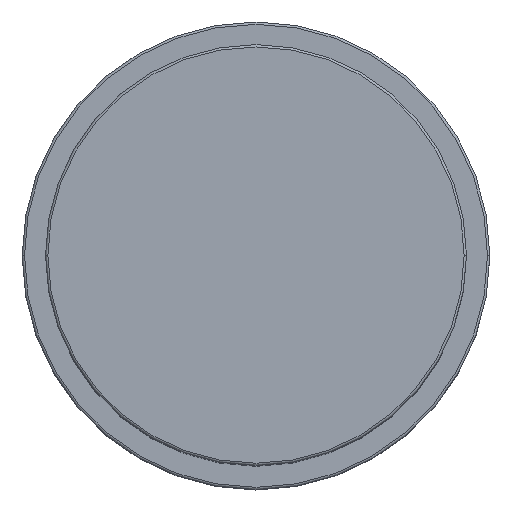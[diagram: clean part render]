
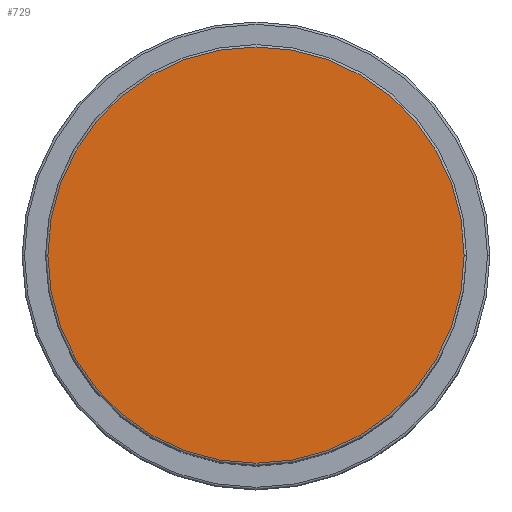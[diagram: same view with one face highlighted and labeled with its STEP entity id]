
A CAD part, top view. The second image highlights one B-rep face of the part: STEP entity #729.
In plain terms, the highlighted planar face has unit normal (0, 0, 1).
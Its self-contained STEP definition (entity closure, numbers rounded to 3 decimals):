
#112 = DIRECTION ( 'NONE',  ( 1., 0., 0. ) ) ;
#128 = DIRECTION ( 'NONE',  ( 0., 0., 1. ) ) ;
#249 = CARTESIAN_POINT ( 'NONE',  ( -44.5, 0., 112. ) ) ;
#282 = AXIS2_PLACEMENT_3D ( 'NONE', #798, #1912, #484 ) ;
#294 = AXIS2_PLACEMENT_3D ( 'NONE', #905, #128, #112 ) ;
#353 = DIRECTION ( 'NONE',  ( 0., 0., 1. ) ) ;
#408 = CIRCLE ( 'NONE', #282, 44.5 ) ;
#484 = DIRECTION ( 'NONE',  ( 1., 0., 0. ) ) ;
#513 = EDGE_LOOP ( 'NONE', ( #828, #1460 ) ) ;
#665 = EDGE_CURVE ( 'NONE', #1919, #876, #408, .T. ) ;
#690 = CARTESIAN_POINT ( 'NONE',  ( 0., 0., 112. ) ) ;
#729 = ADVANCED_FACE ( 'NONE', ( #858 ), #1766, .T. ) ;
#798 = CARTESIAN_POINT ( 'NONE',  ( 0., 0., 112. ) ) ;
#828 = ORIENTED_EDGE ( 'NONE', *, *, #665, .T. ) ;
#858 = FACE_OUTER_BOUND ( 'NONE', #513, .T. ) ;
#876 = VERTEX_POINT ( 'NONE', #249 ) ;
#905 = CARTESIAN_POINT ( 'NONE',  ( 0., 0., 112. ) ) ;
#923 = EDGE_CURVE ( 'NONE', #876, #1919, #1635, .T. ) ;
#1216 = CARTESIAN_POINT ( 'NONE',  ( 44.5, 0., 112. ) ) ;
#1455 = DIRECTION ( 'NONE',  ( 1., 0., 0. ) ) ;
#1460 = ORIENTED_EDGE ( 'NONE', *, *, #923, .T. ) ;
#1526 = AXIS2_PLACEMENT_3D ( 'NONE', #690, #353, #1455 ) ;
#1635 = CIRCLE ( 'NONE', #294, 44.5 ) ;
#1766 = PLANE ( 'NONE',  #1526 ) ;
#1912 = DIRECTION ( 'NONE',  ( 0., 0., 1. ) ) ;
#1919 = VERTEX_POINT ( 'NONE', #1216 ) ;
